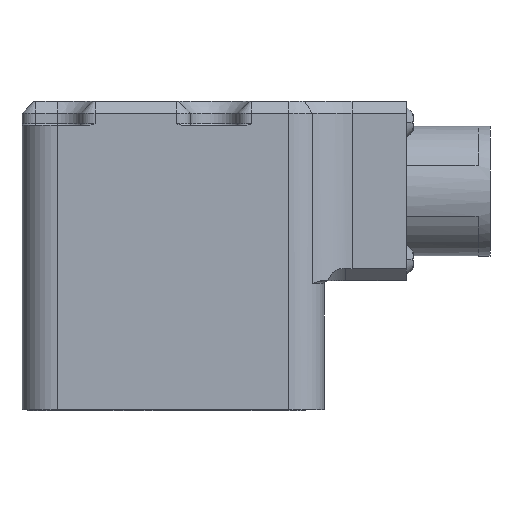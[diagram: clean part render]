
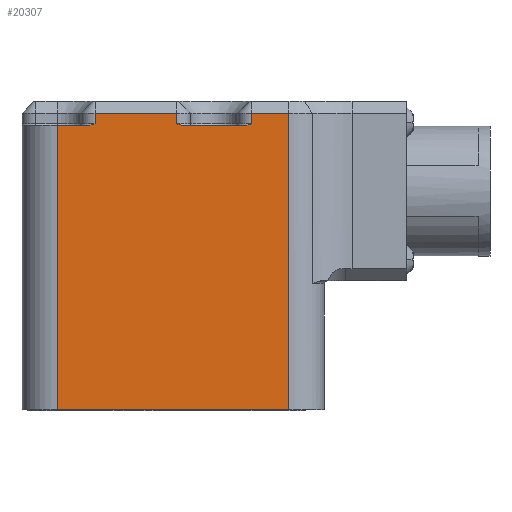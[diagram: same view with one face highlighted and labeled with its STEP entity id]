
A CAD part, left-side view. The second image highlights one B-rep face of the part: STEP entity #20307.
In plain terms, the highlighted planar face has unit normal (-1, 0, 0).
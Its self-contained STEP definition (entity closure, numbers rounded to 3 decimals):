
#3865=DIRECTION('',(0.,1.,0.));
#3866=VECTOR('',#3865,5.199);
#3867=CARTESIAN_POINT('',(-19.,7.901,48.));
#3868=LINE('',#3867,#3866);
#3896=DIRECTION('',(0.,1.,0.));
#3897=VECTOR('',#3896,10.398);
#3898=CARTESIAN_POINT('',(-19.,-18.299,48.));
#3899=LINE('',#3898,#3897);
#6026=DIRECTION('',(0.,-1.,0.));
#6027=VECTOR('',#6026,6.2);
#6028=CARTESIAN_POINT('',(-19.,-19.4,50.));
#6029=LINE('',#6028,#6027);
#6030=DIRECTION('',(0.,0.,1.));
#6031=VECTOR('',#6030,49.5);
#6032=CARTESIAN_POINT('',(-19.,-25.6,0.5));
#6033=LINE('',#6032,#6031);
#6034=DIRECTION('',(0.,1.,0.));
#6035=VECTOR('',#6034,38.7);
#6036=CARTESIAN_POINT('',(-19.,-25.6,0.5));
#6037=LINE('',#6036,#6035);
#6038=DIRECTION('',(0.,0.,-1.));
#6039=VECTOR('',#6038,47.5);
#6040=CARTESIAN_POINT('',(-19.,13.1,48.));
#6041=LINE('',#6040,#6039);
#6042=DIRECTION('',(0.,0.,-1.));
#6043=VECTOR('',#6042,1.75);
#6044=CARTESIAN_POINT('',(-19.,6.8,50.));
#6045=LINE('',#6044,#6043);
#6046=DIRECTION('',(0.,-1.,0.));
#6047=VECTOR('',#6046,13.6);
#6048=CARTESIAN_POINT('',(-19.,6.8,50.));
#6049=LINE('',#6048,#6047);
#6050=DIRECTION('',(0.,0.,1.));
#6051=VECTOR('',#6050,1.75);
#6052=CARTESIAN_POINT('',(-19.,-6.8,48.25));
#6053=LINE('',#6052,#6051);
#6054=DIRECTION('',(0.,0.,-1.));
#6055=VECTOR('',#6054,1.75);
#6056=CARTESIAN_POINT('',(-19.,-19.4,50.));
#6057=LINE('',#6056,#6055);
#6063=CARTESIAN_POINT('',(-19.,6.8,48.25));
#6064=CARTESIAN_POINT('',(-19.,6.867,48.228));
#6065=CARTESIAN_POINT('',(-19.,6.998,48.185));
#6066=CARTESIAN_POINT('',(-19.,7.183,48.127));
#6067=CARTESIAN_POINT('',(-19.,7.352,48.08));
#6068=CARTESIAN_POINT('',(-19.,7.508,48.044));
#6069=CARTESIAN_POINT('',(-19.,7.652,48.018));
#6070=CARTESIAN_POINT('',(-19.,7.785,48.003));
#6071=CARTESIAN_POINT('',(-19.,7.864,48.));
#6072=CARTESIAN_POINT('',(-19.,7.901,48.));
#6203=CARTESIAN_POINT('',(-19.,-19.4,48.25));
#6204=CARTESIAN_POINT('',(-19.,-19.333,
48.228));
#6205=CARTESIAN_POINT('',(-19.,-19.202,
48.185));
#6206=CARTESIAN_POINT('',(-19.,-19.017,48.127));
#6207=CARTESIAN_POINT('',(-19.,-18.848,48.08));
#6208=CARTESIAN_POINT('',(-19.,-18.692,48.044));
#6209=CARTESIAN_POINT('',(-19.,-18.548,48.018));
#6210=CARTESIAN_POINT('',(-19.,-18.415,48.003));
#6211=CARTESIAN_POINT('',(-19.,-18.336,48.));
#6212=CARTESIAN_POINT('',(-19.,-18.299,48.));
#6234=CARTESIAN_POINT('',(-19.,-7.901,48.));
#6235=CARTESIAN_POINT('',(-19.,-7.864,48.));
#6236=CARTESIAN_POINT('',(-19.,-7.784,48.003));
#6237=CARTESIAN_POINT('',(-19.,-7.652,48.018));
#6238=CARTESIAN_POINT('',(-19.,-7.508,48.044));
#6239=CARTESIAN_POINT('',(-19.,-7.352,48.08));
#6240=CARTESIAN_POINT('',(-19.,-7.183,48.127));
#6241=CARTESIAN_POINT('',(-19.,-6.998,
48.185));
#6242=CARTESIAN_POINT('',(-19.,-6.867,
48.228));
#6243=CARTESIAN_POINT('',(-19.,-6.8,48.25));
#10844=CARTESIAN_POINT('',(-19.,13.1,0.5));
#10846=VERTEX_POINT('',#10844);
#10884=CARTESIAN_POINT('',(-19.,13.1,48.));
#10886=VERTEX_POINT('',#10884);
#10908=CARTESIAN_POINT('',(-19.,7.901,48.));
#10909=VERTEX_POINT('',#10908);
#10910=CARTESIAN_POINT('',(-19.,6.8,48.25));
#10911=VERTEX_POINT('',#10910);
#10913=CARTESIAN_POINT('',(-19.,-6.8,48.25));
#10915=VERTEX_POINT('',#10913);
#10917=CARTESIAN_POINT('',(-19.,-7.901,48.));
#10919=VERTEX_POINT('',#10917);
#10932=CARTESIAN_POINT('',(-19.,-18.299,48.));
#10933=VERTEX_POINT('',#10932);
#10934=CARTESIAN_POINT('',(-19.,-19.4,48.25));
#10935=VERTEX_POINT('',#10934);
#10988=CARTESIAN_POINT('',(-19.,-19.4,50.));
#10989=CARTESIAN_POINT('',(-19.,-25.6,50.));
#10990=VERTEX_POINT('',#10988);
#10991=VERTEX_POINT('',#10989);
#11010=CARTESIAN_POINT('',(-19.,-6.8,50.));
#11011=VERTEX_POINT('',#11010);
#11014=CARTESIAN_POINT('',(-19.,6.8,50.));
#11015=VERTEX_POINT('',#11014);
#11326=CARTESIAN_POINT('',(-19.,-25.6,0.5));
#11328=VERTEX_POINT('',#11326);
#20280=CARTESIAN_POINT('',(-19.,19.,0.5));
#20281=DIRECTION('',(-1.,0.,0.));
#20282=DIRECTION('',(0.,-1.,0.));
#20283=AXIS2_PLACEMENT_3D('',#20280,#20281,#20282);
#20284=PLANE('',#20283);
#20285=ORIENTED_EDGE('',*,*,#17423,.T.);
#20286=ORIENTED_EDGE('',*,*,#17452,.F.);
#20287=ORIENTED_EDGE('',*,*,#17477,.T.);
#20289=ORIENTED_EDGE('',*,*,#20288,.F.);
#20290=ORIENTED_EDGE('',*,*,#17140,.F.);
#20292=ORIENTED_EDGE('',*,*,#20291,.F.);
#20294=ORIENTED_EDGE('',*,*,#20293,.F.);
#20295=ORIENTED_EDGE('',*,*,#17339,.T.);
#20297=ORIENTED_EDGE('',*,*,#20296,.F.);
#20299=ORIENTED_EDGE('',*,*,#20298,.F.);
#20300=ORIENTED_EDGE('',*,*,#17169,.F.);
#20302=ORIENTED_EDGE('',*,*,#20301,.F.);
#20304=ORIENTED_EDGE('',*,*,#20303,.F.);
#20305=EDGE_LOOP('',(#20285,#20286,#20287,#20289,#20290,#20292,#20294,#20295,
#20297,#20299,#20300,#20302,#20304));
#20306=FACE_OUTER_BOUND('',#20305,.F.);
#6073=B_SPLINE_CURVE_WITH_KNOTS('',3,(#6063,#6064,#6065,#6066,#6067,#6068,#6069,
#6070,#6071,#6072),.UNSPECIFIED.,.F.,.F.,(4,1,1,1,1,1,1,4),(0.,
0.143,0.286,0.429,0.571,
0.714,0.857,1.),.UNSPECIFIED.);
#6213=B_SPLINE_CURVE_WITH_KNOTS('',3,(#6203,#6204,#6205,#6206,#6207,#6208,#6209,
#6210,#6211,#6212),.UNSPECIFIED.,.F.,.F.,(4,1,1,1,1,1,1,4),(0.,
0.143,0.286,0.429,0.571,
0.714,0.857,1.),.UNSPECIFIED.);
#6244=B_SPLINE_CURVE_WITH_KNOTS('',3,(#6234,#6235,#6236,#6237,#6238,#6239,#6240,
#6241,#6242,#6243),.UNSPECIFIED.,.F.,.F.,(4,1,1,1,1,1,1,4),(0.,
0.143,0.286,0.429,0.571,
0.714,0.857,1.),.UNSPECIFIED.);
#17140=EDGE_CURVE('',#10909,#10886,#3868,.T.);
#17169=EDGE_CURVE('',#10933,#10919,#3899,.T.);
#17339=EDGE_CURVE('',#11015,#11011,#6049,.T.);
#17423=EDGE_CURVE('',#10990,#10991,#6029,.T.);
#17452=EDGE_CURVE('',#11328,#10991,#6033,.T.);
#17477=EDGE_CURVE('',#11328,#10846,#6037,.T.);
#20288=EDGE_CURVE('',#10886,#10846,#6041,.T.);
#20291=EDGE_CURVE('',#10911,#10909,#6073,.T.);
#20293=EDGE_CURVE('',#11015,#10911,#6045,.T.);
#20296=EDGE_CURVE('',#10915,#11011,#6053,.T.);
#20298=EDGE_CURVE('',#10919,#10915,#6244,.T.);
#20301=EDGE_CURVE('',#10935,#10933,#6213,.T.);
#20303=EDGE_CURVE('',#10990,#10935,#6057,.T.);
#20307=ADVANCED_FACE('',(#20306),#20284,.T.);
